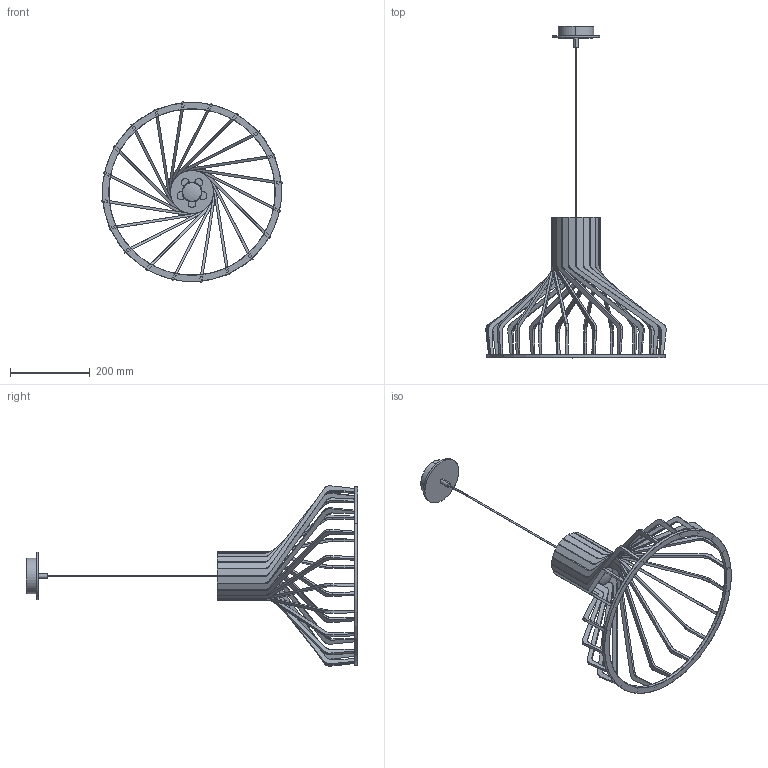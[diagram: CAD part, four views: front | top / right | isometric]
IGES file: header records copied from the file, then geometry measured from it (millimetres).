
Start section: SolidWorks IGES file using analytic representation for surfaces
Global section: file name: E:\....SOLID WORKS\drewno sklejka\nowa sklejka\BIO M.IGS; native system: SolidWorks 2016; preprocessor: SolidWorks 2016; author: ｣ukasz; date: 160826.100541; units: millimetre
Bounding box: 453.32 x 833.64 x 453.32 mm (x, y, z)
Surface area: 508110.8 mm2 (no closed solid volume)
Topology: 0 solids, 0 shells, 536 faces, 5670 edges, 5670 vertices
Faces by surface type: bspline 363, revolution 173
